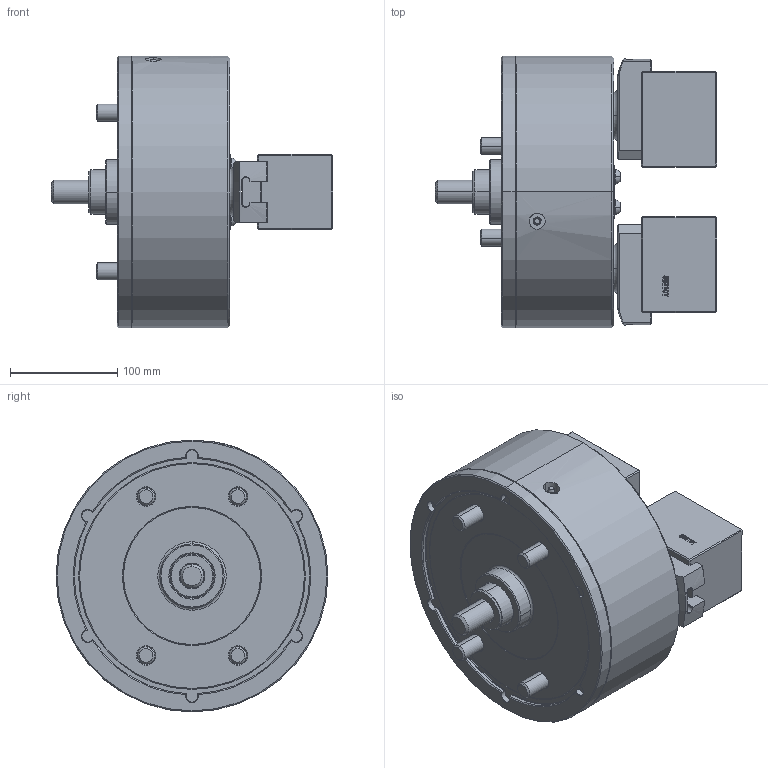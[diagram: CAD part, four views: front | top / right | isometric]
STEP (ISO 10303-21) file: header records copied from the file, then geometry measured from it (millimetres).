
FILE_DESCRIPTION (( 'STEP AP214' ), '1' );
FILE_NAME ('PWT10_CL_OD.STEP', '2019-10-21T06:56:55', ( '' ), ( '' ), 'SwSTEP 2.0', 'SolidWorks 2017', '' );
FILE_SCHEMA (( 'AUTOMOTIVE_DESIGN' ));
Length unit declared in the file: millimetre
Products named in the file (5): 結合_OD; 0030116025; 61P332345; 61P420193; PWT10_CL_OD
Assembly tree (9 placements, depth 2):
  PWT10_CL_OD
    61P420193  x2
    61P332345  x2
    0030116025  x4
    結合_OD
Bounding box: 262.8 x 254 x 254 mm (x, y, z)
Volume: 6175968.9 mm3; surface area: 428775.7 mm2
Topology: 9 solids, 10 shells, 1590 faces, 3957 edges, 2495 vertices
Faces by surface type: plane 830, cone 252, bspline 245, cylinder 209, torus 54
Entity records: 47828 total; most frequent: CARTESIAN_POINT 17499, ORIENTED_EDGE 6584, DIRECTION 5574, EDGE_CURVE 3292, VERTEX_POINT 2092, LINE 1892, VECTOR 1892, AXIS2_PLACEMENT_3D 1841
